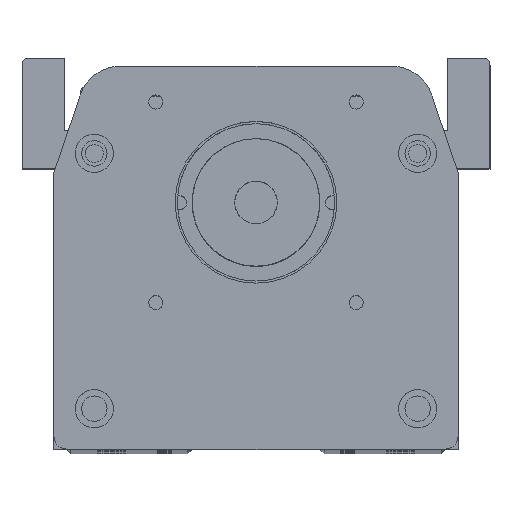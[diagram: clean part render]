
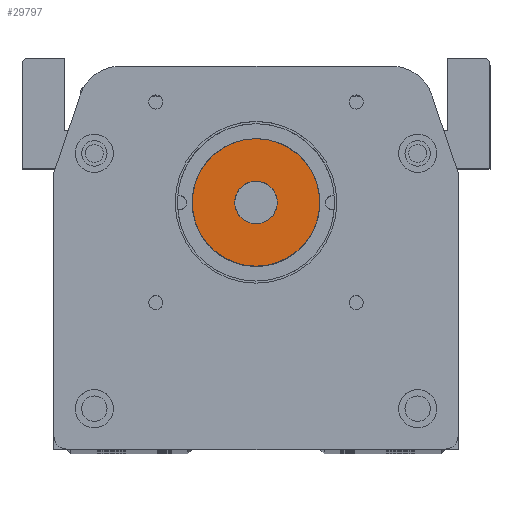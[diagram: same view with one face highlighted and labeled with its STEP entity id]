
A CAD part, top view. The second image highlights one B-rep face of the part: STEP entity #29797.
In plain terms, the highlighted planar face has unit normal (0, 0, 1).
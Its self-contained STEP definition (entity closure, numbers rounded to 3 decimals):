
#708 = DIRECTION ( 'NONE',  ( 0., 0., 1. ) ) ;
#900 = AXIS2_PLACEMENT_3D ( 'NONE', #14481, #37885, #17848 ) ;
#1619 = DIRECTION ( 'NONE',  ( 1., 0., 0. ) ) ;
#1815 = AXIS2_PLACEMENT_3D ( 'NONE', #18872, #42261, #22220 ) ;
#1911 = VERTEX_POINT ( 'NONE', #29894 ) ;
#5774 = ORIENTED_EDGE ( 'NONE', *, *, #33212, .F. ) ;
#8006 = EDGE_CURVE ( 'NONE', #13611, #18070, #19957, .T. ) ;
#8339 = AXIS2_PLACEMENT_3D ( 'NONE', #30307, #10232, #33688 ) ;
#10232 = DIRECTION ( 'NONE',  ( 0., 0., 1. ) ) ;
#12985 = EDGE_CURVE ( 'NONE', #1911, #40146, #33299, .T. ) ;
#13611 = VERTEX_POINT ( 'NONE', #37592 ) ;
#13734 = ORIENTED_EDGE ( 'NONE', *, *, #19026, .T. ) ;
#14481 = CARTESIAN_POINT ( 'NONE',  ( -6.16, 0., 40.753 ) ) ;
#14986 = CARTESIAN_POINT ( 'NONE',  ( -6.16, 0., 40.753 ) ) ;
#15040 = AXIS2_PLACEMENT_3D ( 'NONE', #14986, #38245, #1619 ) ;
#15461 = FACE_BOUND ( 'NONE', #23095, .T. ) ;
#17848 = DIRECTION ( 'NONE',  ( 1., 0., 0. ) ) ;
#18070 = VERTEX_POINT ( 'NONE', #29326 ) ;
#18872 = CARTESIAN_POINT ( 'NONE',  ( -6.16, 0., 40.753 ) ) ;
#19026 = EDGE_CURVE ( 'NONE', #18070, #13611, #20406, .T. ) ;
#19957 = CIRCLE ( 'NONE', #900, 14.978 ) ;
#20406 = CIRCLE ( 'NONE', #1815, 14.978 ) ;
#20823 = CARTESIAN_POINT ( 'NONE',  ( -6.16, 0., 40.753 ) ) ;
#22220 = DIRECTION ( 'NONE',  ( 1., 0., 0. ) ) ;
#23095 = EDGE_LOOP ( 'NONE', ( #5774, #37856 ) ) ;
#24223 = DIRECTION ( 'NONE',  ( 1., 0., 0. ) ) ;
#24388 = FACE_OUTER_BOUND ( 'NONE', #30866, .T. ) ;
#29326 = CARTESIAN_POINT ( 'NONE',  ( -21.138, 0., 40.753 ) ) ;
#29797 = ADVANCED_FACE ( 'NONE', ( #24388, #15461 ), #41776, .T. ) ;
#29894 = CARTESIAN_POINT ( 'NONE',  ( -1.157, 0., 40.753 ) ) ;
#30287 = AXIS2_PLACEMENT_3D ( 'NONE', #20823, #708, #24223 ) ;
#30307 = CARTESIAN_POINT ( 'NONE',  ( -6.16, 0., 40.753 ) ) ;
#30866 = EDGE_LOOP ( 'NONE', ( #13734, #31186 ) ) ;
#31186 = ORIENTED_EDGE ( 'NONE', *, *, #8006, .T. ) ;
#33212 = EDGE_CURVE ( 'NONE', #40146, #1911, #37782, .T. ) ;
#33299 = CIRCLE ( 'NONE', #8339, 5.003 ) ;
#33688 = DIRECTION ( 'NONE',  ( 1., 0., 0. ) ) ;
#37592 = CARTESIAN_POINT ( 'NONE',  ( 8.817, 0., 40.753 ) ) ;
#37782 = CIRCLE ( 'NONE', #30287, 5.003 ) ;
#37856 = ORIENTED_EDGE ( 'NONE', *, *, #12985, .F. ) ;
#37885 = DIRECTION ( 'NONE',  ( 0., 0., 1. ) ) ;
#38245 = DIRECTION ( 'NONE',  ( 0., 0., 1. ) ) ;
#40146 = VERTEX_POINT ( 'NONE', #42775 ) ;
#41776 = PLANE ( 'NONE',  #15040 ) ;
#42261 = DIRECTION ( 'NONE',  ( 0., 0., 1. ) ) ;
#42775 = CARTESIAN_POINT ( 'NONE',  ( -11.163, 0., 40.753 ) ) ;
